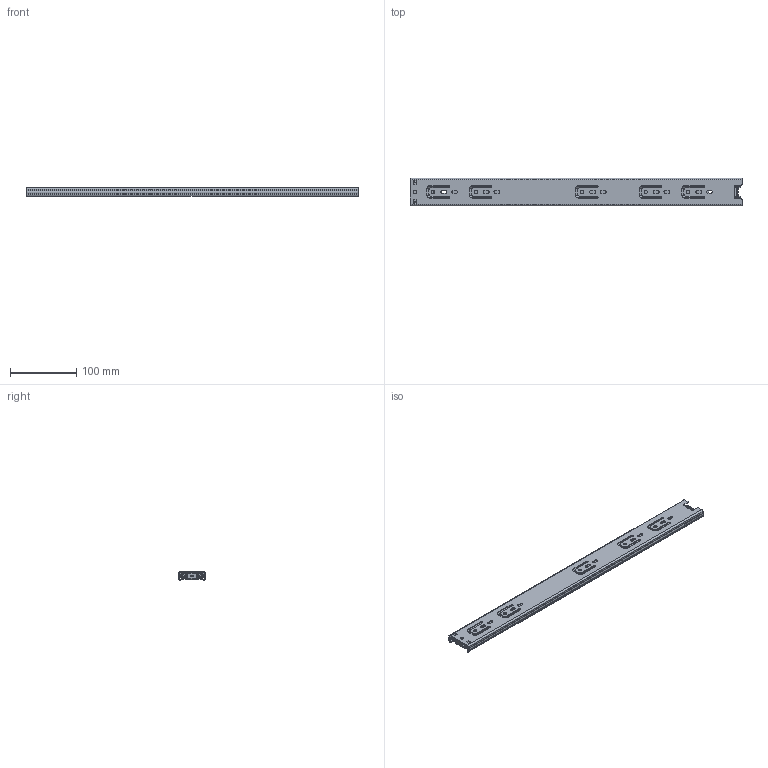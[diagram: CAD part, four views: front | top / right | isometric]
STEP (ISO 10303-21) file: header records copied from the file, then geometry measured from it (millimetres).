
FILE_DESCRIPTION (( 'STEP AP214' ), '1' );
FILE_NAME ('Telescopic Slides.STEP', '2020-01-23T05:50:17', ( '' ), ( '' ), 'SwSTEP 2.0', 'SolidWorks 2019', '' );
FILE_SCHEMA (( 'AUTOMOTIVE_DESIGN' ));
Length unit declared in the file: millimetre
Products named in the file (68): Ball; Telescopic Slides; Plastic Lock; Plastic Ball Bearing Stick_500; Bearing Slide; Plastic Front Stopper; Big Slide; Plastic Bearing Stick_500; Small Slide; Rivet; Middle Slide; Big Slide_500; Rubber Back Stopper; Ball Bearing Slide_500; Plastic Bearing Stick; Small Slide_500; Bearing Slide_500; Middle Slide_500
Assembly tree (57 placements, depth 3):
  Ball
  Ball
  Telescopic Slides
    Big Slide_500
    Rubber Back Stopper
    Middle Slide_500
    Plastic Front Stopper
    Ball Bearing Slide_500
      Bearing Slide_500
      Ball  x32
    Small Slide_500
    Plastic Lock
    Rivet
    Plastic Ball Bearing Stick_500
      Plastic Bearing Stick_500
      Ball  x6
    Plastic Ball Bearing Stick_500
      Plastic Bearing Stick_500
      Ball  x6
  Ball
  Ball
Bounding box: 500 x 42 x 13 mm (x, y, z)
Volume: 98744.6 mm3; surface area: 175118.8 mm2
Topology: 54 solids, 54 shells, 1378 faces, 3547 edges, 2181 vertices
Faces by surface type: cylinder 588, plane 539, torus 125, sphere 92, bspline 34
Entity records: 41017 total; most frequent: CARTESIAN_POINT 9682, DIRECTION 6615, ORIENTED_EDGE 6112, EDGE_CURVE 3056, AXIS2_PLACEMENT_3D 2472, VERTEX_POINT 1855, VECTOR 1671, LINE 1671
